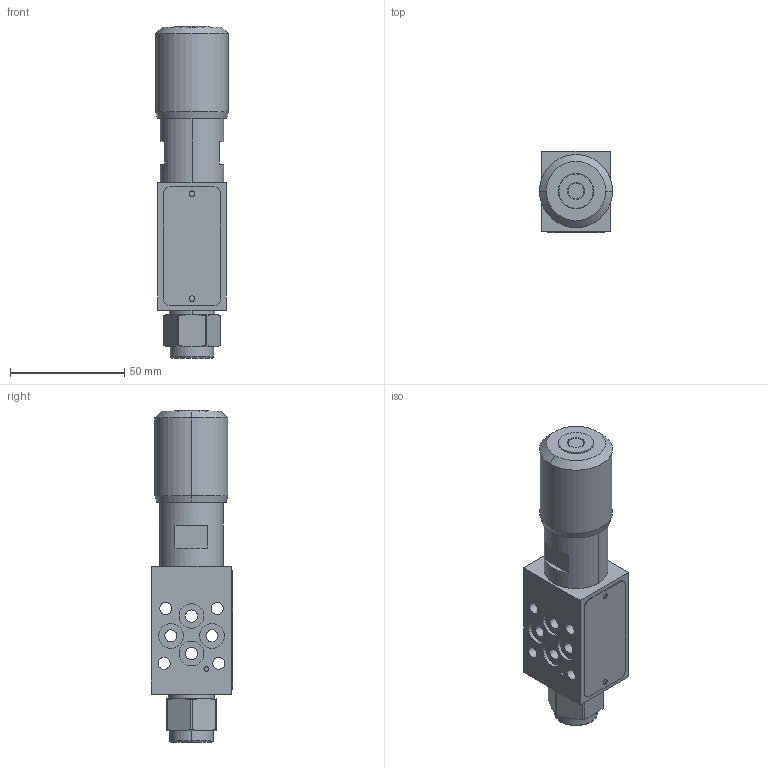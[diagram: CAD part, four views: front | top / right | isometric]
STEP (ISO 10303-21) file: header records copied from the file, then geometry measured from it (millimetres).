
FILE_DESCRIPTION((''),'2;1');
FILE_NAME('VRP2_04_PR_16_225600','2023-01-03T',('l.soukupova'),(''),'PRO/ENGINEER BY PARAMETRIC TECHNOLOGY CORPORATION, 2015440','PRO/ENGINEER BY PARAMETRIC TECHNOLOGY CORPORATION, 2015440','');
FILE_SCHEMA(('AUTOMOTIVE_DESIGN { 1 0 10303 214 1 1 1 1 }'));
Length unit declared in the file: millimetre
Products named in the file (1): VRP2_04_PR_16_225600
Bounding box: 32 x 35.5 x 145.5 mm (x, y, z)
Volume: 104167.3 mm3; surface area: 28595.1 mm2
Topology: 2 solids, 3 shells, 129 faces, 582 edges, 503 vertices
Faces by surface type: cylinder 62, plane 53, cone 12, torus 2
Entity records: 8206 total; most frequent: CARTESIAN_POINT 1169, DIRECTION 972, PRESENTATION_STYLE_ASSIGNMENT 655, STYLED_ITEM 600, CURVE_STYLE 598, ORIENTED_EDGE 592, VECTOR 420, LINE 420
